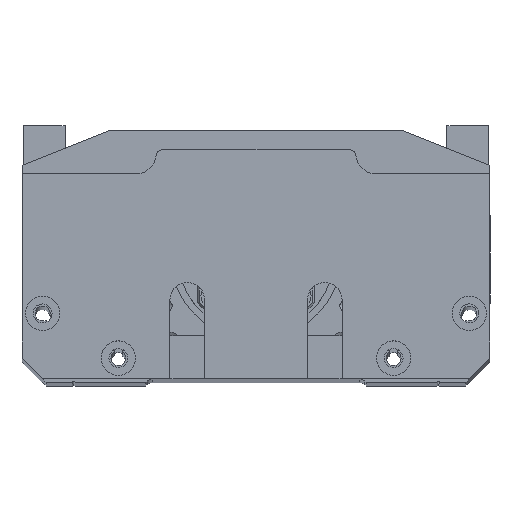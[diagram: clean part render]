
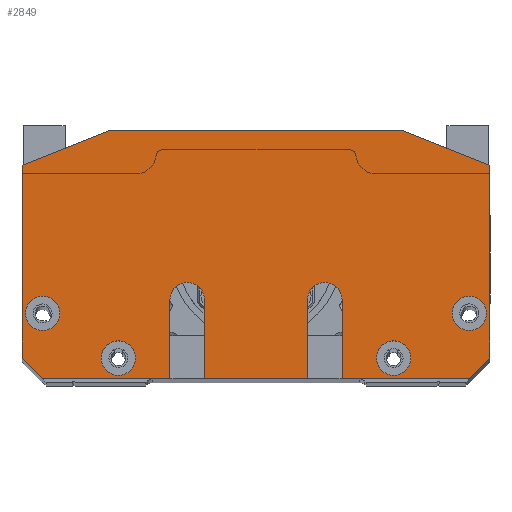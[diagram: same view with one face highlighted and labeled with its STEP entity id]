
A CAD part, top view. The second image highlights one B-rep face of the part: STEP entity #2849.
In plain terms, the highlighted planar face has unit normal (0, 0, 1).
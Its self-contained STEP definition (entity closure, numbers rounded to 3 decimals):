
#883=FACE_BOUND('',#4989,.T.);
#884=FACE_BOUND('',#4990,.T.);
#885=FACE_BOUND('',#4991,.T.);
#886=FACE_BOUND('',#4992,.T.);
#887=FACE_BOUND('',#4993,.T.);
#1988=CIRCLE('',#17848,5.);
#1990=CIRCLE('',#17853,5.);
#2008=CIRCLE('',#17885,5.);
#2009=CIRCLE('',#17886,5.);
#2010=CIRCLE('',#17887,5.);
#2011=CIRCLE('',#17888,5.);
#2849=ADVANCED_FACE('9',(#883,#884,#885,#886,#887),#3482,.T.);
#3482=PLANE('',#17889);
#4989=EDGE_LOOP('',(#8312,#8313,#8314,#8315,#8316,#8317,#8318,#8319,#8320,
#8321,#8322,#8323,#8324,#8325,#8326,#8327));
#4990=EDGE_LOOP('',(#8328));
#4991=EDGE_LOOP('',(#8329));
#4992=EDGE_LOOP('',(#8330));
#4993=EDGE_LOOP('',(#8331));
#8312=ORIENTED_EDGE('',*,*,#13508,.T.);
#8313=ORIENTED_EDGE('',*,*,#13510,.T.);
#8314=ORIENTED_EDGE('',*,*,#13504,.T.);
#8315=ORIENTED_EDGE('',*,*,#12608,.F.);
#8316=ORIENTED_EDGE('',*,*,#13516,.T.);
#8317=ORIENTED_EDGE('',*,*,#13518,.T.);
#8318=ORIENTED_EDGE('',*,*,#13512,.T.);
#8319=ORIENTED_EDGE('',*,*,#12605,.F.);
#8320=ORIENTED_EDGE('',*,*,#12622,.T.);
#8321=ORIENTED_EDGE('',*,*,#12648,.F.);
#8322=ORIENTED_EDGE('',*,*,#13527,.T.);
#8323=ORIENTED_EDGE('',*,*,#13549,.F.);
#8324=ORIENTED_EDGE('',*,*,#13530,.T.);
#8325=ORIENTED_EDGE('',*,*,#12550,.F.);
#8326=ORIENTED_EDGE('',*,*,#12593,.T.);
#8327=ORIENTED_EDGE('',*,*,#12611,.F.);
#8328=ORIENTED_EDGE('',*,*,#13550,.F.);
#8329=ORIENTED_EDGE('',*,*,#13551,.F.);
#8330=ORIENTED_EDGE('',*,*,#13552,.F.);
#8331=ORIENTED_EDGE('',*,*,#13553,.F.);
#10780=VERTEX_POINT('',#24976);
#10781=VERTEX_POINT('',#24978);
#10809=VERTEX_POINT('',#25057);
#10815=VERTEX_POINT('',#25078);
#10816=VERTEX_POINT('',#25080);
#10817=VERTEX_POINT('',#25083);
#10818=VERTEX_POINT('',#25085);
#10819=VERTEX_POINT('',#25088);
#10826=VERTEX_POINT('',#25109);
#10848=VERTEX_POINT('',#25159);
#11378=VERTEX_POINT('',#28709);
#11380=VERTEX_POINT('',#28715);
#11382=VERTEX_POINT('',#28724);
#11384=VERTEX_POINT('',#28730);
#11393=VERTEX_POINT('',#28755);
#11395=VERTEX_POINT('',#28761);
#11405=VERTEX_POINT('',#28801);
#11406=VERTEX_POINT('',#28803);
#11407=VERTEX_POINT('',#28805);
#11408=VERTEX_POINT('',#28807);
#12550=EDGE_CURVE('',#10780,#10781,#14650,.T.);
#12593=EDGE_CURVE('',#10780,#10809,#14683,.T.);
#12605=EDGE_CURVE('',#10815,#10816,#14694,.T.);
#12608=EDGE_CURVE('',#10817,#10818,#14697,.T.);
#12611=EDGE_CURVE('',#10819,#10809,#14700,.T.);
#12622=EDGE_CURVE('',#10815,#10826,#14710,.T.);
#12648=EDGE_CURVE('',#10848,#10826,#14734,.T.);
#13504=EDGE_CURVE('',#11378,#10818,#15150,.T.);
#13508=EDGE_CURVE('',#10819,#11380,#15154,.T.);
#13510=EDGE_CURVE('',#11380,#11378,#1988,.T.);
#13512=EDGE_CURVE('',#11382,#10816,#15156,.T.);
#13516=EDGE_CURVE('',#10817,#11384,#15160,.T.);
#13518=EDGE_CURVE('',#11384,#11382,#1990,.T.);
#13527=EDGE_CURVE('',#10848,#11393,#15165,.T.);
#13530=EDGE_CURVE('',#11395,#10781,#15168,.T.);
#13549=EDGE_CURVE('',#11395,#11393,#15174,.T.);
#13550=EDGE_CURVE('',#11405,#11405,#2008,.T.);
#13551=EDGE_CURVE('',#11406,#11406,#2009,.T.);
#13552=EDGE_CURVE('',#11407,#11407,#2010,.T.);
#13553=EDGE_CURVE('',#11408,#11408,#2011,.T.);
#14650=LINE('',#24977,#15896);
#14683=LINE('',#25058,#15929);
#14694=LINE('',#25079,#15940);
#14697=LINE('',#25084,#15943);
#14700=LINE('',#25089,#15946);
#14710=LINE('',#25110,#15956);
#14734=LINE('',#25160,#15980);
#15150=LINE('',#28708,#16396);
#15154=LINE('',#28716,#16400);
#15156=LINE('',#28723,#16402);
#15160=LINE('',#28731,#16406);
#15165=LINE('',#28754,#16411);
#15168=LINE('',#28760,#16414);
#15174=LINE('',#28799,#16420);
#15896=VECTOR('',#19558,1.);
#15929=VECTOR('',#19629,1.);
#15940=VECTOR('',#19648,1.);
#15943=VECTOR('',#19651,1.);
#15946=VECTOR('',#19654,1.);
#15956=VECTOR('',#19672,1.);
#15980=VECTOR('',#19704,1.);
#16396=VECTOR('',#21454,1.);
#16400=VECTOR('',#21460,1.);
#16402=VECTOR('',#21470,1.);
#16406=VECTOR('',#21476,1.);
#16411=VECTOR('',#21501,1.);
#16414=VECTOR('',#21506,1.);
#16420=VECTOR('',#21558,1.);
#17848=AXIS2_PLACEMENT_3D('',#28719,#21465,#21466);
#17853=AXIS2_PLACEMENT_3D('',#28734,#21481,#21482);
#17885=AXIS2_PLACEMENT_3D('',#28800,#21559,#21560);
#17886=AXIS2_PLACEMENT_3D('',#28802,#21561,#21562);
#17887=AXIS2_PLACEMENT_3D('',#28804,#21563,#21564);
#17888=AXIS2_PLACEMENT_3D('',#28806,#21565,#21566);
#17889=AXIS2_PLACEMENT_3D('',#28808,#21567,#21568);
#19558=DIRECTION('',(0.,1.,0.));
#19629=DIRECTION('',(0.707,-0.707,0.));
#19648=DIRECTION('',(-1.,0.,0.));
#19651=DIRECTION('',(-1.,0.,0.));
#19654=DIRECTION('',(-1.,0.,0.));
#19672=DIRECTION('',(0.707,0.707,0.));
#19704=DIRECTION('',(0.,-1.,0.));
#21454=DIRECTION('',(0.,-1.,0.));
#21460=DIRECTION('',(0.,1.,0.));
#21465=DIRECTION('',(0.,0.,-1.));
#21466=DIRECTION('',(1.,0.,0.));
#21470=DIRECTION('',(0.,-1.,0.));
#21476=DIRECTION('',(0.,1.,0.));
#21481=DIRECTION('',(0.,0.,-1.));
#21482=DIRECTION('',(-1.,0.,0.));
#21501=DIRECTION('',(-0.928,0.371,0.));
#21506=DIRECTION('',(-0.928,-0.371,0.));
#21558=DIRECTION('',(1.,0.,0.));
#21559=DIRECTION('',(0.,0.,1.));
#21560=DIRECTION('',(1.,0.,0.));
#21561=DIRECTION('',(0.,0.,1.));
#21562=DIRECTION('',(1.,0.,0.));
#21563=DIRECTION('',(0.,0.,1.));
#21564=DIRECTION('',(1.,0.,0.));
#21565=DIRECTION('',(0.,0.,1.));
#21566=DIRECTION('',(1.,0.,0.));
#21567=DIRECTION('',(0.,0.,1.));
#21568=DIRECTION('',(-1.,0.,0.));
#24976=CARTESIAN_POINT('',(-68.,6.,382.));
#24977=CARTESIAN_POINT('',(-68.,0.,382.));
#24978=CARTESIAN_POINT('',(-68.,62.,382.));
#25057=CARTESIAN_POINT('',(-62.,0.,382.));
#25058=CARTESIAN_POINT('',(-49.,-13.,382.));
#25078=CARTESIAN_POINT('',(62.,0.,382.));
#25079=CARTESIAN_POINT('',(68.,0.,382.));
#25080=CARTESIAN_POINT('',(25.,0.,382.));
#25083=CARTESIAN_POINT('',(15.,0.,382.));
#25084=CARTESIAN_POINT('',(68.,0.,382.));
#25085=CARTESIAN_POINT('',(-15.,0.,382.));
#25088=CARTESIAN_POINT('',(-25.,0.,382.));
#25089=CARTESIAN_POINT('',(68.,0.,382.));
#25109=CARTESIAN_POINT('',(68.,6.,382.));
#25110=CARTESIAN_POINT('',(49.,-13.,382.));
#25159=CARTESIAN_POINT('',(68.,62.,382.));
#25160=CARTESIAN_POINT('',(68.,0.,382.));
#28708=CARTESIAN_POINT('',(-15.,23.,382.));
#28709=CARTESIAN_POINT('',(-15.,23.,382.));
#28715=CARTESIAN_POINT('',(-25.,23.,382.));
#28716=CARTESIAN_POINT('',(-25.,23.,382.));
#28719=CARTESIAN_POINT('',(-20.,23.,382.));
#28723=CARTESIAN_POINT('',(25.,23.,382.));
#28724=CARTESIAN_POINT('',(25.,23.,382.));
#28730=CARTESIAN_POINT('',(15.,23.,382.));
#28731=CARTESIAN_POINT('',(15.,23.,382.));
#28734=CARTESIAN_POINT('',(20.,23.,382.));
#28754=CARTESIAN_POINT('',(18.345,81.862,382.));
#28755=CARTESIAN_POINT('',(43.,72.,382.));
#28760=CARTESIAN_POINT('',(-18.345,81.862,382.));
#28761=CARTESIAN_POINT('',(-43.,72.,382.));
#28799=CARTESIAN_POINT('',(68.,72.,382.));
#28800=CARTESIAN_POINT('',(-62.,19.,382.));
#28801=CARTESIAN_POINT('',(-57.,19.,382.));
#28802=CARTESIAN_POINT('',(62.,19.,382.));
#28803=CARTESIAN_POINT('',(67.,19.,382.));
#28804=CARTESIAN_POINT('',(-40.,6.,382.));
#28805=CARTESIAN_POINT('',(-35.,6.,382.));
#28806=CARTESIAN_POINT('',(40.,6.,382.));
#28807=CARTESIAN_POINT('',(45.,6.,382.));
#28808=CARTESIAN_POINT('',(0.,36.,382.));
